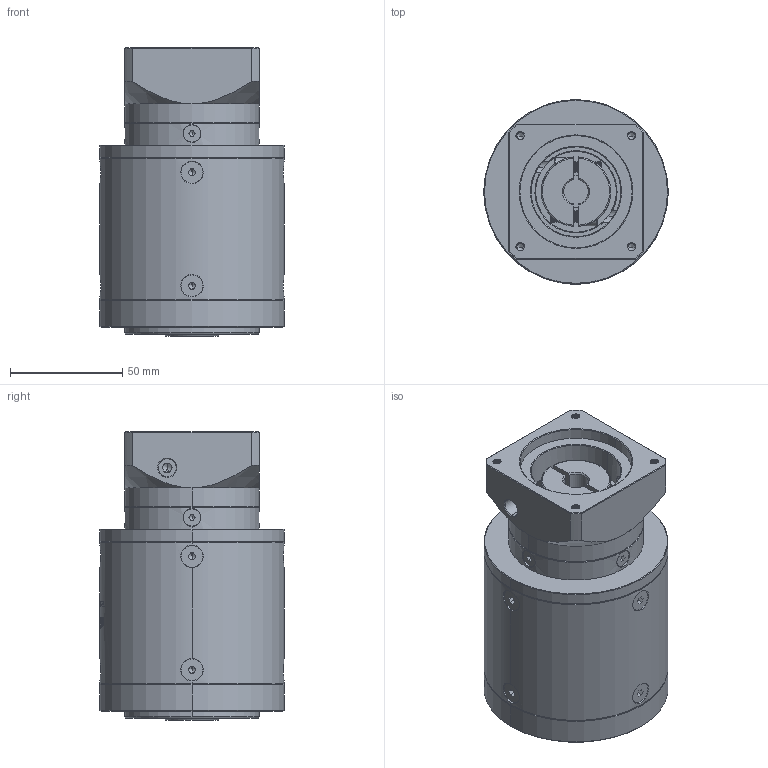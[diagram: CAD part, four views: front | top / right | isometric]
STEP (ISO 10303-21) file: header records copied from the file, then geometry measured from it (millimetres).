
FILE_DESCRIPTION (( 'STEP AP214' ), '1' );
FILE_NAME ('ZE80-K15-L3-11-50-70-M4.step', '2022-05-08T06:07:43', ( '' ), ( 'Microsoft' ), 'SwSTEP 2.0', 'SolidWorks 2016', '' );
FILE_SCHEMA (( 'AUTOMOTIVE_DESIGN' ));
Length unit declared in the file: millimetre
Products named in the file (1): ZE80-K15-L3-11-50-70-M4
Bounding box: 82 x 82 x 128.5 mm (x, y, z)
Volume: 529608.9 mm3; surface area: 67709.5 mm2
Topology: 18 solids, 18 shells, 2045 faces, 5388 edges, 3433 vertices
Faces by surface type: plane 936, cylinder 458, bspline 330, cone 307, torus 14
Entity records: 110210 total; most frequent: CARTESIAN_POINT 41095, ORIENTED_EDGE 10688, DIRECTION 8365, EDGE_CURVE 5344, VERTEX_POINT 3433, VECTOR 2861, LINE 2861, AXIS2_PLACEMENT_3D 2752
